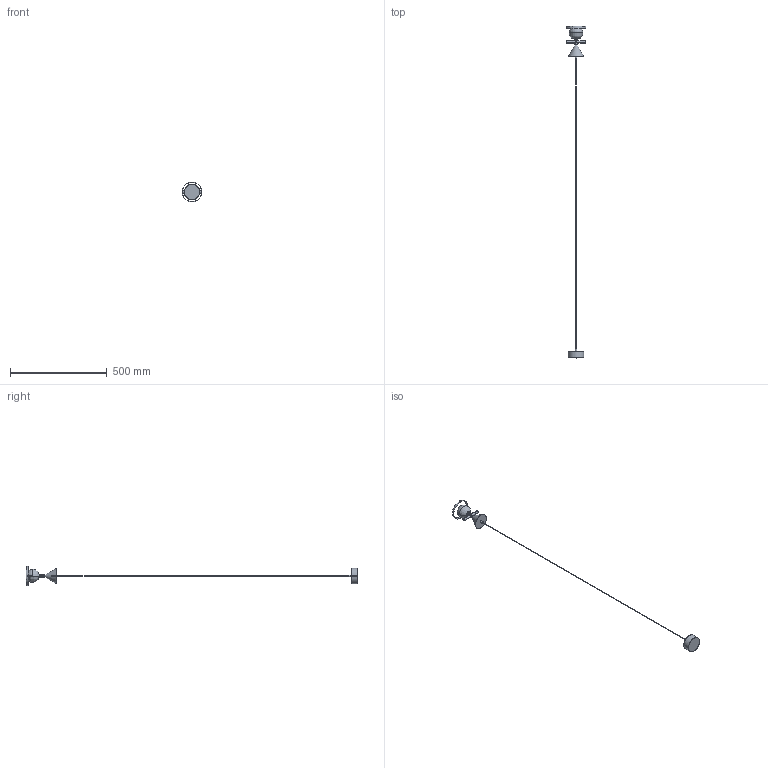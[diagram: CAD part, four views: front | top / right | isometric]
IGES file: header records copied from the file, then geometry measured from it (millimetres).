
Start section: SolidWorks IGES file using analytic representation for surfaces
Global section: file name: C:\Users\Agus\Desktop\Novedades Enero_2022 - 3D\conito - copia - copia - copia - R&S - 1299\C1299\C1299.IGS; native system: SolidWorks 2018; preprocessor: SolidWorks 2018; author: Agus; date: 220221.102632; units: millimetre
Bounding box: 103.42 x 1717.23 x 103.42 mm (x, y, z)
Surface area: 85333.4 mm2 (no closed solid volume)
Topology: 0 solids, 0 shells, 50 faces, 960 edges, 959 vertices
Faces by surface type: revolution 32, bspline 18
